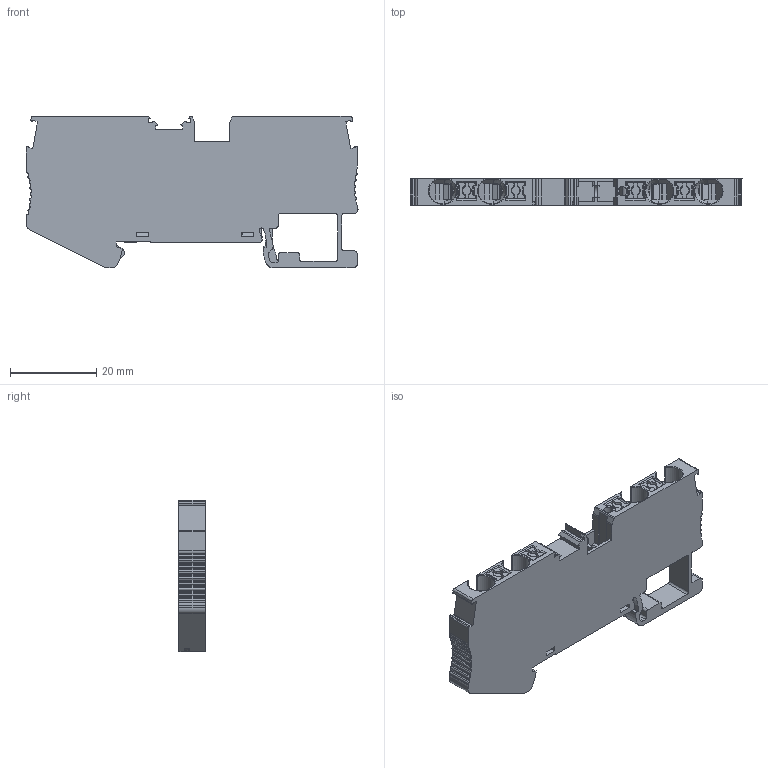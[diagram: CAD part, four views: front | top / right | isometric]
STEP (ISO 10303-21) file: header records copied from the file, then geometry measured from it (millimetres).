
FILE_DESCRIPTION(/* description */ (''),/* implementation_level */ '2;1');
FILE_NAME(/* name */ 'UPT-4-2-2PE ASSY.stp',/* time_stamp */ '2024-04-26T15:23:11+08:00',/* author */ (''),/* organization */ (''),/* preprocessor_version */ 'ST-DEVELOPER v16.7',/* originating_system */ 'SIEMENS PLM Software NX 12.0',/* authorisation */ '');
FILE_SCHEMA (('AUTOMOTIVE_DESIGN { 1 0 10303 214 3 1 1 1 }'));
Length unit declared in the file: millimetre
Products named in the file (1): Admi0EB4BAB8ixso
Bounding box: 77.04 x 6.2 x 35.25 mm (x, y, z)
Volume: 11452.5 mm3; surface area: 9265.7 mm2
Topology: 1 solids, 8 shells, 1106 faces, 3141 edges, 2059 vertices
Faces by surface type: plane 694, cylinder 356, torus 24, cone 24, bspline 8
Entity records: 36660 total; most frequent: CARTESIAN_POINT 7482, ORIENTED_EDGE 6266, DIRECTION 5925, EDGE_CURVE 3133, LINE 2235, VECTOR 2235, VERTEX_POINT 2059, AXIS2_PLACEMENT_3D 1845
